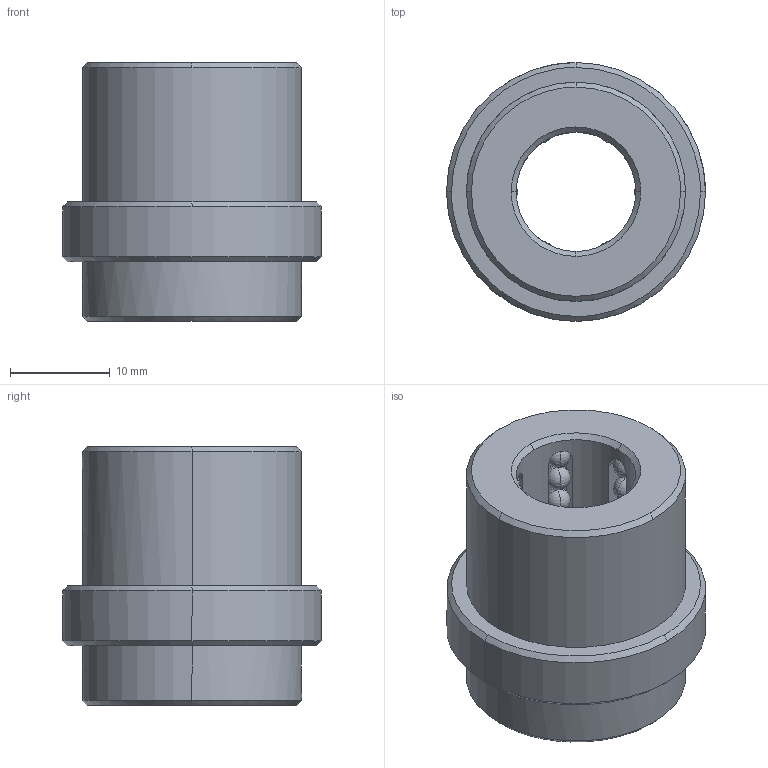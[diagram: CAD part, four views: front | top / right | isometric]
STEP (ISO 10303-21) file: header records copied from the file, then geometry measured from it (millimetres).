
FILE_DESCRIPTION(('CATIA V5 STEP Exchange'),'2;1');
FILE_NAME('C:\Users\Raffaele\Desktop\3D BOLEX\3D FILES CF BOLEX\5-BUSH REF 812\B8121226.stp','2019-06-20T11:58:29+00:00',('none'),('none'),'CATIA Version 5 Release 20 GA (IN-10)','CATIA V5 STEP AP203','none');
FILE_SCHEMA(('CONFIG_CONTROL_DESIGN'));
Length unit declared in the file: millimetre
Products named in the file (1): B8121226
Bounding box: 26 x 26 x 26 mm (x, y, z)
Volume: 7432.2 mm3; surface area: 5204.4 mm2
Topology: 49 solids, 49 shells, 258 faces, 738 edges, 200 vertices
Faces by surface type: sphere 192, cone 24, plane 22, cylinder 20
Entity records: 5437 total; most frequent: CARTESIAN_POINT 1220, DIRECTION 833, ORIENTED_EDGE 708, AXIS2_PLACEMENT_3D 494, EDGE_CURVE 354, EDGE_LOOP 266, ADVANCED_FACE 258, FACE_OUTER_BOUND 258
